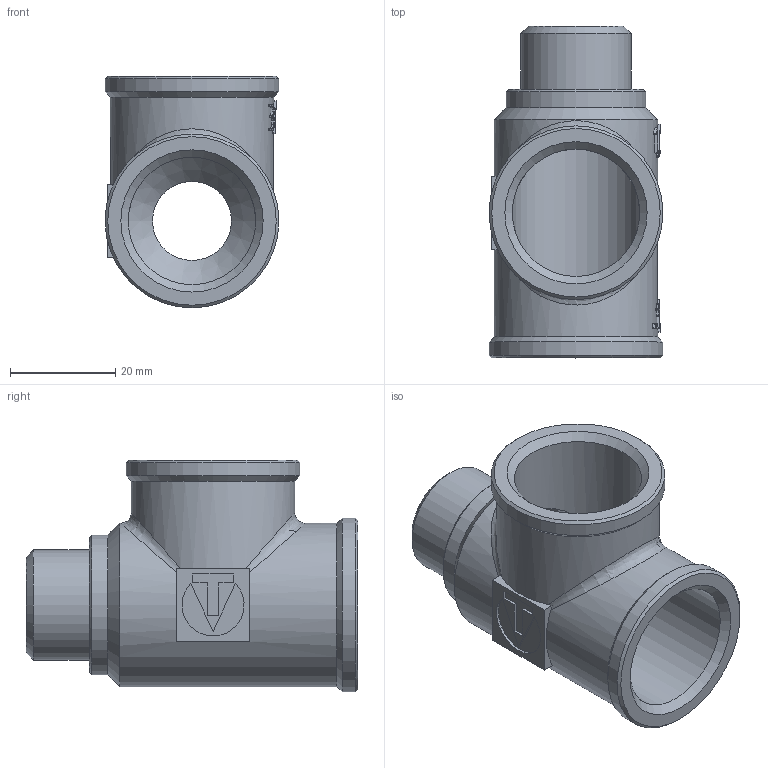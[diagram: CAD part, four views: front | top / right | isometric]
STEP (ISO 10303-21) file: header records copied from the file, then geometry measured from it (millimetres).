
FILE_DESCRIPTION(('STEP AP203'), '1');
FILE_NAME('ÂÐ.752249.012 - VTr.134.RN.050504 - Òðîé. ñ ïåðåõ. íà íàð. ðåçüá', '2024-06-26T08:12:42', ('Boss'), (''), 'C3D Converter', 'C3D Toolkit', '');
FILE_SCHEMA(('CONFIG_CONTROL_DESIGN'));
Length unit declared in the file: millimetre
Products named in the file (1): ВР.752249.012
Bounding box: 33 x 63 x 44 mm (x, y, z)
Volume: 21042.2 mm3; surface area: 13046.2 mm2
Topology: 1 solids, 1 shells, 348 faces, 976 edges, 645 vertices
Faces by surface type: extrusion 196, plane 114, cylinder 25, cone 11, bspline 2
Full cylindrical faces by diameter (mm): 15 x1, 20.955 x1, 24.2 x2, 26.5 x1, 31 x2, 33 x2
Entity records: 15788 total; most frequent: CARTESIAN_POINT 7945, ORIENTED_EDGE 1904, DIRECTION 1009, EDGE_CURVE 952, VERTEX_POINT 645, B_SPLINE_CURVE_WITH_KNOTS 597, VECTOR 561, EDGE_LOOP 391
